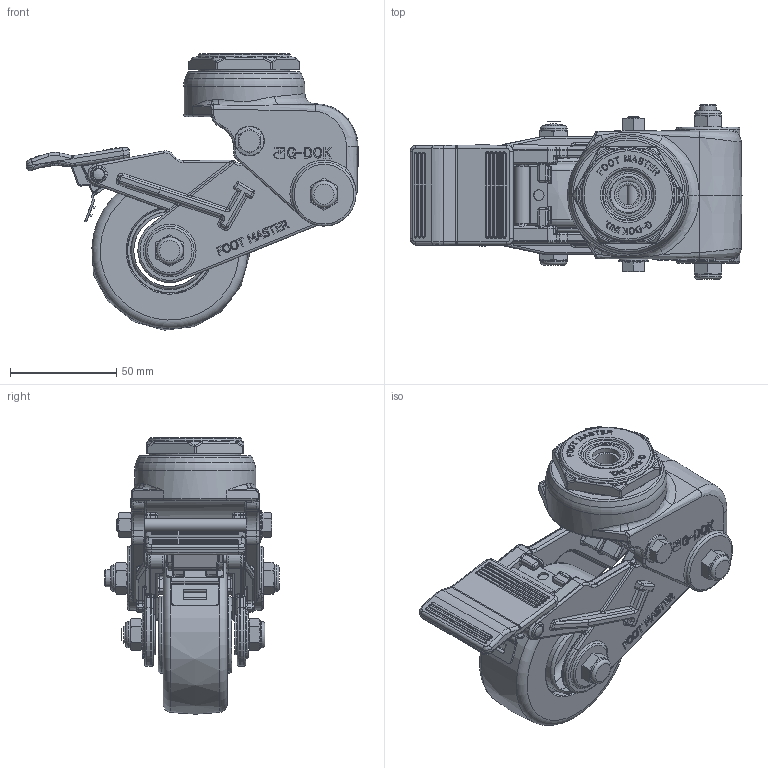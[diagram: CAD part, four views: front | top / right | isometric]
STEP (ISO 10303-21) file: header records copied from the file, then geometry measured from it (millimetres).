
FILE_DESCRIPTION(/* description */ (''),/* implementation_level */ '2;1');
FILE_NAME(/* name */ '\\192.168.10.38\지덕공유\1.기술연구소\2.연구개발 진행중\135.GDS-75_브레이크 검토건_2025.11.20\1.도면\2.3D\홈페이지용\2026.8.13\GDS-75 BSS_BRS TYPE_20260813.stp',/* time_stamp */ '2026-08-13T14:55:06+09:00',/* author */ ('admin'),/* organization */ (''),/* preprocessor_version */ 'ST-DEVELOPER v18.1',/* originating_system */ 'Autodesk Inventor 2021',/* authorisation */ '');
FILE_SCHEMA (('AUTOMOTIVE_DESIGN { 1 0 10303 214 3 1 1 }'));
Products named in the file (1): GDS-75 BSS_BRS TYPE_20260813
Bounding box: 156.05 x 82 x 129.93 mm (x, y, z)
Volume: 321520.4 mm3; surface area: 85447.7 mm2
Topology: 1 solids, 1 shells, 2442 faces, 6059 edges, 3676 vertices
Faces by surface type: plane 832, bspline 738, cylinder 534, cone 140, torus 111, sphere 87
Full cylindrical faces by diameter (mm): 2.5 x1, 4 x1, 4.2 x2, 5 x1, 6 x2, 7.95 x2, 9.3 x1, 10 x1, 10.7 x1, 10.8 x3, 11.6 x1, 12.5 x4, 13 x1, 14 x1, 43 x1, 57 x1
Entity records: 92903 total; most frequent: CARTESIAN_POINT 39040, ORIENTED_EDGE 12000, DIRECTION 9872, EDGE_CURVE 6000, VERTEX_POINT 3676, AXIS2_PLACEMENT_3D 3520, LINE 2832, VECTOR 2832
